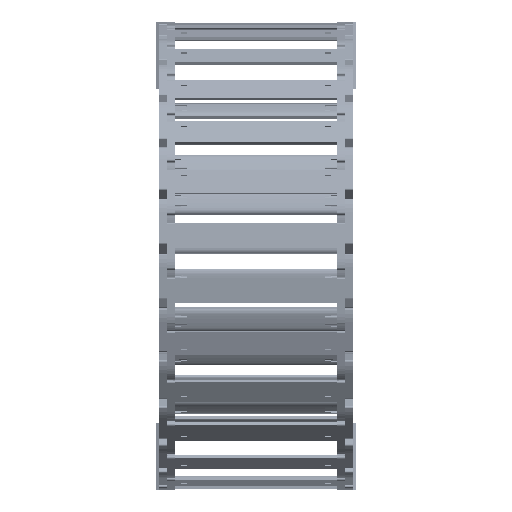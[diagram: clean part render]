
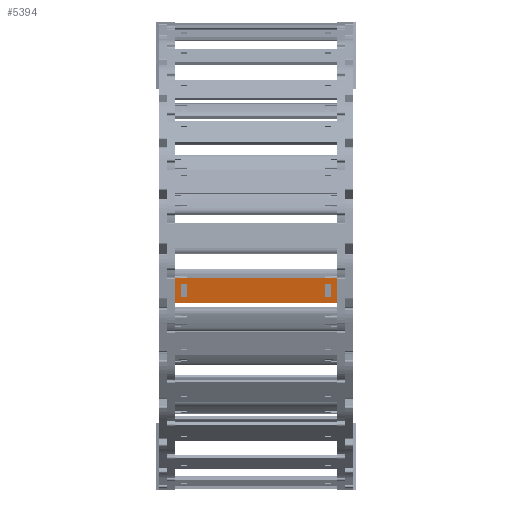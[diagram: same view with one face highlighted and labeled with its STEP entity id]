
A CAD part, left-side view. The second image highlights one B-rep face of the part: STEP entity #5394.
In plain terms, the highlighted planar face has unit normal (-0.989, 0, -0.146) as drawn and (0, 1, 0) by its records, which use the part's own axes.
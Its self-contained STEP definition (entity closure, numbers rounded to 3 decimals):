
#4814=DIRECTION('',(0.,0.,1.));
#4815=VECTOR('',#4814,15.8);
#4816=CARTESIAN_POINT('',(88.74,1.5,-7.9));
#4817=LINE('',#4816,#4815);
#4818=DIRECTION('',(-1.,0.,0.));
#4819=VECTOR('',#4818,103.5);
#4820=CARTESIAN_POINT('',(88.74,1.5,7.9));
#4821=LINE('',#4820,#4819);
#4822=DIRECTION('',(0.,0.,-1.));
#4823=VECTOR('',#4822,15.8);
#4824=CARTESIAN_POINT('',(-14.76,1.5,7.9));
#4825=LINE('',#4824,#4823);
#4826=DIRECTION('',(1.,0.,0.));
#4827=VECTOR('',#4826,3.648);
#4828=CARTESIAN_POINT('',(81.122,1.5,4.075));
#4829=LINE('',#4828,#4827);
#4830=DIRECTION('',(0.,0.,-1.));
#4831=VECTOR('',#4830,8.15);
#4832=CARTESIAN_POINT('',(84.77,1.5,4.075));
#4833=LINE('',#4832,#4831);
#4834=DIRECTION('',(-1.,0.,0.));
#4835=VECTOR('',#4834,3.648);
#4836=CARTESIAN_POINT('',(84.77,1.5,-4.075));
#4837=LINE('',#4836,#4835);
#4838=DIRECTION('',(0.,0.,-1.));
#4839=VECTOR('',#4838,8.15);
#4840=CARTESIAN_POINT('',(-7.142,1.5,4.075));
#4841=LINE('',#4840,#4839);
#4842=DIRECTION('',(-1.,0.,0.));
#4843=VECTOR('',#4842,3.648);
#4844=CARTESIAN_POINT('',(-7.142,1.5,-4.075));
#4845=LINE('',#4844,#4843);
#4846=DIRECTION('',(0.,0.,1.));
#4847=VECTOR('',#4846,8.15);
#4848=CARTESIAN_POINT('',(-10.79,1.5,-4.075));
#4849=LINE('',#4848,#4847);
#4850=DIRECTION('',(1.,0.,0.));
#4851=VECTOR('',#4850,3.648);
#4852=CARTESIAN_POINT('',(-10.79,1.5,4.075));
#4853=LINE('',#4852,#4851);
#4858=DIRECTION('',(-1.,0.,0.));
#4859=VECTOR('',#4858,103.5);
#4860=CARTESIAN_POINT('',(88.74,1.5,-7.9));
#4861=LINE('',#4860,#4859);
#4979=DIRECTION('',(0.,0.,-1.));
#4980=VECTOR('',#4979,8.15);
#4981=CARTESIAN_POINT('',(81.122,1.5,4.075));
#4982=LINE('',#4981,#4980);
#5164=CARTESIAN_POINT('',(84.77,1.5,4.075));
#5165=VERTEX_POINT('',#5164);
#5166=CARTESIAN_POINT('',(81.122,1.5,4.075));
#5167=VERTEX_POINT('',#5166);
#5208=CARTESIAN_POINT('',(81.122,1.5,-4.075));
#5209=VERTEX_POINT('',#5208);
#5210=CARTESIAN_POINT('',(84.77,1.5,-4.075));
#5211=VERTEX_POINT('',#5210);
#5212=CARTESIAN_POINT('',(88.74,1.5,7.9));
#5214=VERTEX_POINT('',#5212);
#5216=CARTESIAN_POINT('',(88.74,1.5,-7.9));
#5217=VERTEX_POINT('',#5216);
#5240=CARTESIAN_POINT('',(-7.142,1.5,4.075));
#5241=CARTESIAN_POINT('',(-7.142,1.5,-4.075));
#5242=VERTEX_POINT('',#5240);
#5243=VERTEX_POINT('',#5241);
#5244=CARTESIAN_POINT('',(-10.79,1.5,-4.075));
#5245=VERTEX_POINT('',#5244);
#5246=CARTESIAN_POINT('',(-10.79,1.5,4.075));
#5247=VERTEX_POINT('',#5246);
#5248=CARTESIAN_POINT('',(-14.76,1.5,7.9));
#5249=VERTEX_POINT('',#5248);
#5252=CARTESIAN_POINT('',(-14.76,1.5,-7.9));
#5253=VERTEX_POINT('',#5252);
#5363=CARTESIAN_POINT('',(120.48,1.5,10.061));
#5364=DIRECTION('',(0.,-1.,0.));
#5365=DIRECTION('',(0.,0.,-1.));
#5366=AXIS2_PLACEMENT_3D('',#5363,#5364,#5365);
#5367=PLANE('',#5366);
#5368=ORIENTED_EDGE('',*,*,#5302,.T.);
#5369=ORIENTED_EDGE('',*,*,#5328,.T.);
#5370=ORIENTED_EDGE('',*,*,#5341,.T.);
#5372=ORIENTED_EDGE('',*,*,#5371,.F.);
#5373=EDGE_LOOP('',(#5368,#5369,#5370,#5372));
#5374=FACE_OUTER_BOUND('',#5373,.F.);
#5376=ORIENTED_EDGE('',*,*,#5375,.F.);
#5377=ORIENTED_EDGE('',*,*,#5265,.T.);
#5379=ORIENTED_EDGE('',*,*,#5378,.T.);
#5381=ORIENTED_EDGE('',*,*,#5380,.T.);
#5382=EDGE_LOOP('',(#5376,#5377,#5379,#5381));
#5383=FACE_BOUND('',#5382,.F.);
#5385=ORIENTED_EDGE('',*,*,#5384,.T.);
#5387=ORIENTED_EDGE('',*,*,#5386,.T.);
#5389=ORIENTED_EDGE('',*,*,#5388,.T.);
#5391=ORIENTED_EDGE('',*,*,#5390,.T.);
#5392=EDGE_LOOP('',(#5385,#5387,#5389,#5391));
#5393=FACE_BOUND('',#5392,.F.);
#5394=ADVANCED_FACE('',(#5374,#5383,#5393),#5367,.F.);
#5265=EDGE_CURVE('',#5167,#5165,#4829,.T.);
#5302=EDGE_CURVE('',#5217,#5214,#4817,.T.);
#5328=EDGE_CURVE('',#5214,#5249,#4821,.T.);
#5341=EDGE_CURVE('',#5249,#5253,#4825,.T.);
#5371=EDGE_CURVE('',#5217,#5253,#4861,.T.);
#5375=EDGE_CURVE('',#5167,#5209,#4982,.T.);
#5378=EDGE_CURVE('',#5165,#5211,#4833,.T.);
#5380=EDGE_CURVE('',#5211,#5209,#4837,.T.);
#5384=EDGE_CURVE('',#5242,#5243,#4841,.T.);
#5386=EDGE_CURVE('',#5243,#5245,#4845,.T.);
#5388=EDGE_CURVE('',#5245,#5247,#4849,.T.);
#5390=EDGE_CURVE('',#5247,#5242,#4853,.T.);
